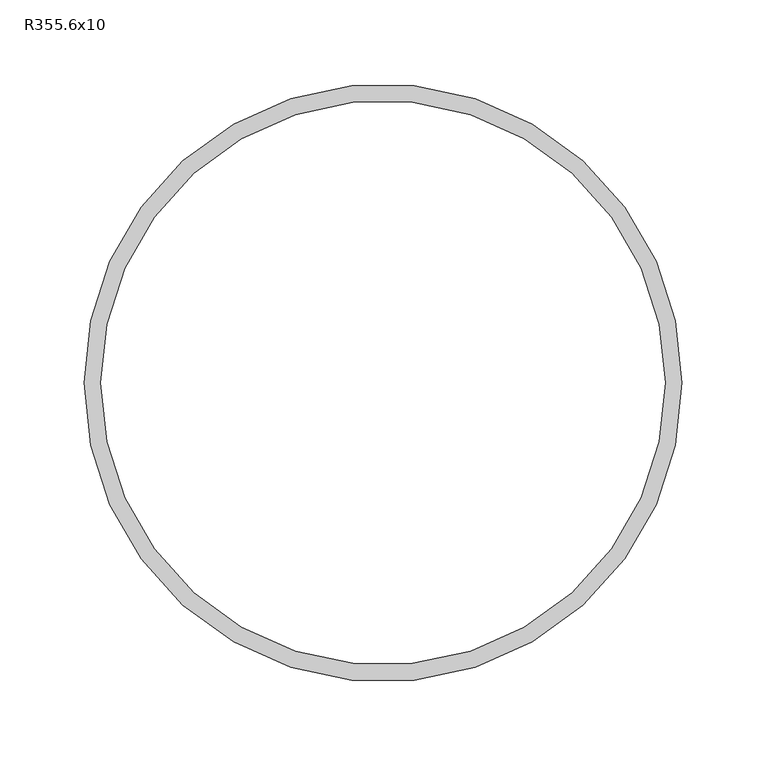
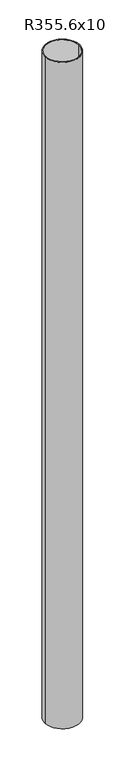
"""IFC4 building model written with IfcOpenShell, lengths in millimetres: column geometry, RPLN RO - Rury okragle_Column : R355.6x10."""

from ifc_helpers import new_model, si_unit, point, origin, origin_with_axes, origin_2d, place, context, project, spatial, circle_curve, trimmed, segment, composite_curve, outline, extrude, source, transform, mapped, element, save


def r355_6x10_30b81005(model_context):
    return source(origin(), model_context, "Body", "SweptSolid", [
        extrude(outline(composite_curve([segment(trimmed(circle_curve(origin_2d(), 177.8), [point((-177.8, 0.0))], [point((177.8, 0.0))], False, "CARTESIAN"), True, "CONTINUOUS"), segment(trimmed(circle_curve(origin_2d(), 177.8), [point((177.8, 0.0))], [point((-177.8, 0.0))], False, "CARTESIAN"), True, "CONTINUOUS")], self_intersect=False), holes=[composite_curve([segment(trimmed(circle_curve(origin_2d(), 167.8), [point((-167.8, 0.0))], [point((167.8, 0.0))], True, "CARTESIAN"), True, "CONTINUOUS"), segment(trimmed(circle_curve(origin_2d(), 167.8), [point((167.8, 0.0))], [point((-167.8, 0.0))], True, "CARTESIAN"), True, "CONTINUOUS")], self_intersect=False)]), origin_with_axes(), (0.0, 0.0, 1.0), 7150.0),
    ])


if __name__ == "__main__":
    model = new_model("IFC4")
    model_context = context("Model", 3, world=origin())
    ifc_project = project(units=[si_unit("LENGTHUNIT", "METRE", prefix="MILLI")], contexts=[model_context])
    site = spatial("IfcSite", under=ifc_project)
    building = spatial("IfcBuilding", under=site)
    placement = place(None, origin())
    r355_6x10_shape = r355_6x10_30b81005(model_context)
    element("IfcColumn", 1, ObjectType="RPLN RO - Rury okragle_Column : R355.6x10", at=placement, inside=building, context=model_context, shape_type="MappedRepresentation", body=[
        mapped(r355_6x10_shape, transform((0.0, 0.0, 0.0), x_axis=(1.0, 0.0, 0.0), y_axis=(0.0, 1.0, 0.0), z_axis=(0.0, 0.0, 1.0))),
    ])
    save(model, "model.ifc")
